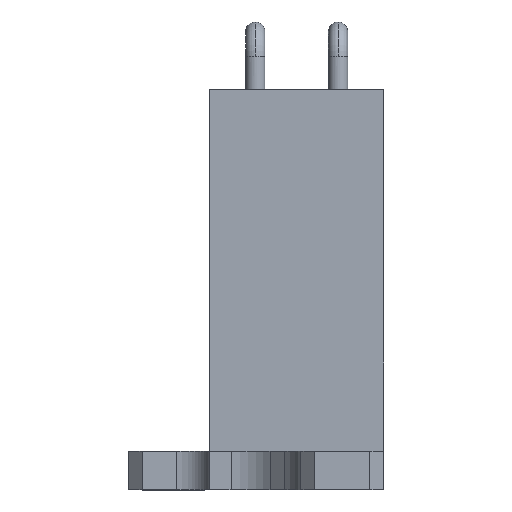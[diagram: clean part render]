
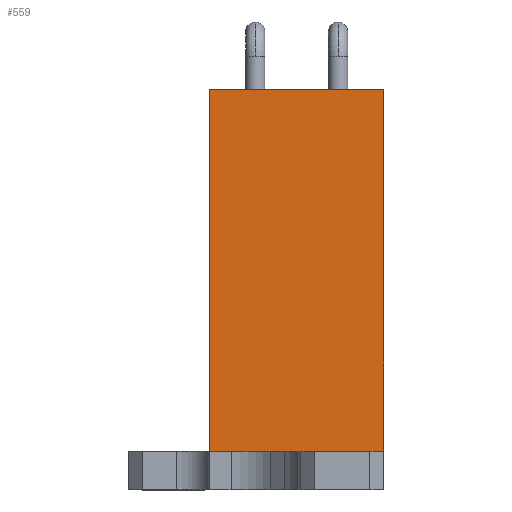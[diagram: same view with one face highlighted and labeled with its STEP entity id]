
A CAD part, top view. The second image highlights one B-rep face of the part: STEP entity #559.
In plain terms, the highlighted planar face has unit normal (0, 0, 1) as drawn and (0, 0, -1) by its records, which use the part's own axes.
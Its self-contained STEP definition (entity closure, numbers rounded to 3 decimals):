
#45 = EDGE_CURVE ( 'NONE', #1359, #1819, #3519, .T. ) ;
#559 = ADVANCED_FACE ( 'NONE', ( #3493 ), #696, .F. ) ;
#696 = PLANE ( 'NONE',  #1285 ) ;
#790 = VERTEX_POINT ( 'NONE', #1803 ) ;
#911 = VECTOR ( 'NONE', #3527, 1000. ) ;
#974 = EDGE_LOOP ( 'NONE', ( #4232, #1286, #3594, #4598 ) ) ;
#1048 = CARTESIAN_POINT ( 'NONE',  ( 0., 0., 0. ) ) ;
#1285 = AXIS2_PLACEMENT_3D ( 'NONE', #1048, #2132, #3471 ) ;
#1286 = ORIENTED_EDGE ( 'NONE', *, *, #4508, .F. ) ;
#1359 = VERTEX_POINT ( 'NONE', #3521 ) ;
#1562 = EDGE_CURVE ( 'NONE', #1819, #3875, #1807, .T. ) ;
#1803 = CARTESIAN_POINT ( 'NONE',  ( -6.55, 3.15, 0. ) ) ;
#1807 = LINE ( 'NONE', #2949, #2353 ) ;
#1819 = VERTEX_POINT ( 'NONE', #4130 ) ;
#1882 = CARTESIAN_POINT ( 'NONE',  ( 6.55, 3.15, 0. ) ) ;
#2025 = EDGE_CURVE ( 'NONE', #790, #1359, #4581, .T. ) ;
#2132 = DIRECTION ( 'NONE',  ( 0., 0., 1. ) ) ;
#2301 = VECTOR ( 'NONE', #2806, 1000. ) ;
#2353 = VECTOR ( 'NONE', #3314, 1000. ) ;
#2514 = CARTESIAN_POINT ( 'NONE',  ( -6.55, -3.15, 0. ) ) ;
#2806 = DIRECTION ( 'NONE',  ( 1., 0., 0. ) ) ;
#2909 = LINE ( 'NONE', #1882, #4485 ) ;
#2949 = CARTESIAN_POINT ( 'NONE',  ( 6.55, -3.15, 0. ) ) ;
#3314 = DIRECTION ( 'NONE',  ( 0., 1., 0. ) ) ;
#3471 = DIRECTION ( 'NONE',  ( 1., 0., 0. ) ) ;
#3493 = FACE_OUTER_BOUND ( 'NONE', #974, .T. ) ;
#3495 = CARTESIAN_POINT ( 'NONE',  ( 6.55, -3.15, 0. ) ) ;
#3519 = LINE ( 'NONE', #3495, #2301 ) ;
#3521 = CARTESIAN_POINT ( 'NONE',  ( -6.55, -3.15, 0. ) ) ;
#3527 = DIRECTION ( 'NONE',  ( 0., -1., 0. ) ) ;
#3594 = ORIENTED_EDGE ( 'NONE', *, *, #1562, .F. ) ;
#3822 = CARTESIAN_POINT ( 'NONE',  ( 6.55, 3.15, 0. ) ) ;
#3875 = VERTEX_POINT ( 'NONE', #3822 ) ;
#4130 = CARTESIAN_POINT ( 'NONE',  ( 6.55, -3.15, 0. ) ) ;
#4232 = ORIENTED_EDGE ( 'NONE', *, *, #2025, .F. ) ;
#4330 = DIRECTION ( 'NONE',  ( -1., 0., 0. ) ) ;
#4485 = VECTOR ( 'NONE', #4330, 1000. ) ;
#4508 = EDGE_CURVE ( 'NONE', #3875, #790, #2909, .T. ) ;
#4581 = LINE ( 'NONE', #2514, #911 ) ;
#4598 = ORIENTED_EDGE ( 'NONE', *, *, #45, .F. ) ;
